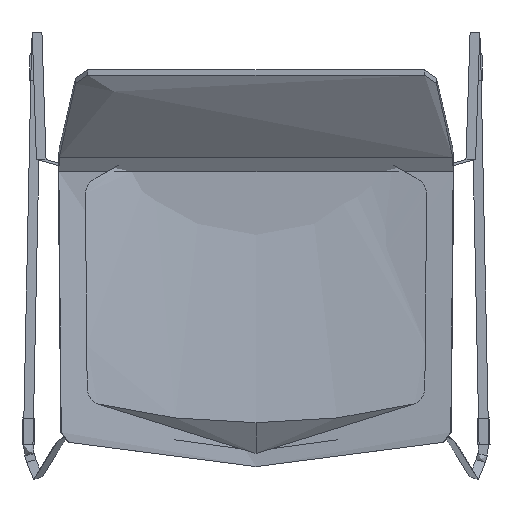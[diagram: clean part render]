
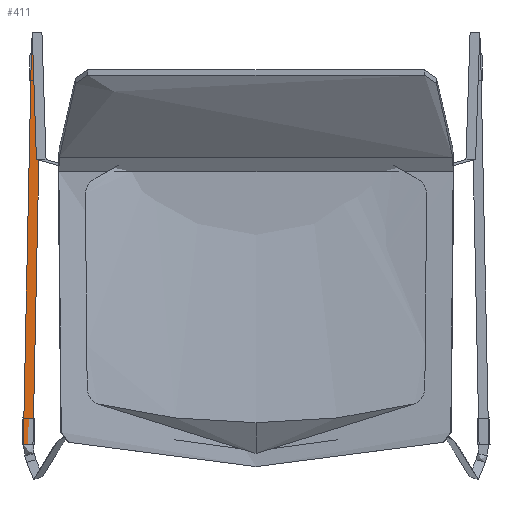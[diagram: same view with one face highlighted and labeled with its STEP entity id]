
A CAD part, top view. The second image highlights one B-rep face of the part: STEP entity #411.
In plain terms, the highlighted free-form (B-spline) face has degree [3, 2] with [4, 5] control points.
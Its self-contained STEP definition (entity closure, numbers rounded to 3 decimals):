
#150=(
BOUNDED_CURVE()
B_SPLINE_CURVE(2,(#5857,#5858,#5859,#5860,#5861),.UNSPECIFIED.,.F.,.F.)
B_SPLINE_CURVE_WITH_KNOTS((3,2,3),(0.,8.639,17.279),
 .UNSPECIFIED.)
CURVE()
GEOMETRIC_REPRESENTATION_ITEM()
RATIONAL_B_SPLINE_CURVE((1.,0.707,1.,0.707,1.))
REPRESENTATION_ITEM('')
);
#151=(
BOUNDED_CURVE()
B_SPLINE_CURVE(3,(#5862,#5863,#5864,#5865),.UNSPECIFIED.,.F.,.F.)
B_SPLINE_CURVE_WITH_KNOTS((4,4),(0.,450.399),.UNSPECIFIED.)
CURVE()
GEOMETRIC_REPRESENTATION_ITEM()
RATIONAL_B_SPLINE_CURVE((1.,1.,1.,1.))
REPRESENTATION_ITEM('')
);
#152=(
BOUNDED_CURVE()
B_SPLINE_CURVE(2,(#5866,#5867,#5868,#5869,#5870),.UNSPECIFIED.,.F.,.F.)
B_SPLINE_CURVE_WITH_KNOTS((3,2,3),(0.,8.639,17.279),
 .UNSPECIFIED.)
CURVE()
GEOMETRIC_REPRESENTATION_ITEM()
RATIONAL_B_SPLINE_CURVE((1.,0.707,1.,0.707,1.))
REPRESENTATION_ITEM('')
);
#177=(
BOUNDED_CURVE()
B_SPLINE_CURVE(3,(#6037,#6038,#6039,#6040),.UNSPECIFIED.,.F.,.F.)
B_SPLINE_CURVE_WITH_KNOTS((4,4),(0.,450.399),.UNSPECIFIED.)
CURVE()
GEOMETRIC_REPRESENTATION_ITEM()
RATIONAL_B_SPLINE_CURVE((1.,1.,1.,1.))
REPRESENTATION_ITEM('')
);
#315=(
BOUNDED_SURFACE()
B_SPLINE_SURFACE(3,2,((#5445,#5446,#5447,#5448,#5449),(#5450,#5451,#5452,
#5453,#5454),(#5455,#5456,#5457,#5458,#5459),(#5460,#5461,#5462,#5463,#5464)),
 .UNSPECIFIED.,.F.,.F.,.F.)
B_SPLINE_SURFACE_WITH_KNOTS((4,4),(3,2,3),(0.,450.399),(0.,8.639,
17.279),.UNSPECIFIED.)
GEOMETRIC_REPRESENTATION_ITEM()
RATIONAL_B_SPLINE_SURFACE(((1.,0.707,1.,0.707,1.),
(1.,0.707,1.,0.707,1.),(1.,0.707,1.,
0.707,1.),(1.,0.707,1.,0.707,1.)))
REPRESENTATION_ITEM('')
SURFACE()
);
#411=ADVANCED_FACE('',(#555),#315,.T.);
#555=FACE_OUTER_BOUND('',#699,.T.);
#699=EDGE_LOOP('',(#991,#992,#993,#994));
#991=ORIENTED_EDGE('',*,*,#1459,.F.);
#992=ORIENTED_EDGE('',*,*,#1460,.T.);
#993=ORIENTED_EDGE('',*,*,#1461,.T.);
#994=ORIENTED_EDGE('',*,*,#1486,.F.);
#1459=EDGE_CURVE('',#1861,#1874,#150,.T.);
#1460=EDGE_CURVE('',#1861,#1862,#151,.T.);
#1461=EDGE_CURVE('',#1862,#1875,#152,.T.);
#1486=EDGE_CURVE('',#1874,#1875,#177,.T.);
#1861=VERTEX_POINT('',#5748);
#1862=VERTEX_POINT('',#5749);
#1874=VERTEX_POINT('',#5761);
#1875=VERTEX_POINT('',#5762);
#5445=CARTESIAN_POINT('',(-254.378,-184.092,7.929));
#5446=CARTESIAN_POINT('',(-254.307,-184.094,13.429));
#5447=CARTESIAN_POINT('',(-259.805,-183.981,13.5));
#5448=CARTESIAN_POINT('',(-265.304,-183.868,13.571));
#5449=CARTESIAN_POINT('',(-265.375,-183.866,8.071));
#5450=CARTESIAN_POINT('',(-251.293,-33.991,7.929));
#5451=CARTESIAN_POINT('',(-251.222,-33.993,13.429));
#5452=CARTESIAN_POINT('',(-256.72,-33.88,13.5));
#5453=CARTESIAN_POINT('',(-262.218,-33.767,13.571));
#5454=CARTESIAN_POINT('',(-262.289,-33.765,8.071));
#5455=CARTESIAN_POINT('',(-248.207,116.11,7.929));
#5456=CARTESIAN_POINT('',(-248.136,116.109,13.429));
#5457=CARTESIAN_POINT('',(-253.635,116.222,13.5));
#5458=CARTESIAN_POINT('',(-259.133,116.335,13.571));
#5459=CARTESIAN_POINT('',(-259.204,116.336,8.071));
#5460=CARTESIAN_POINT('',(-245.122,266.211,7.929));
#5461=CARTESIAN_POINT('',(-245.051,266.21,13.429));
#5462=CARTESIAN_POINT('',(-250.55,266.323,13.5));
#5463=CARTESIAN_POINT('',(-256.048,266.436,13.571));
#5464=CARTESIAN_POINT('',(-256.119,266.437,8.071));
#5748=CARTESIAN_POINT('',(-254.378,-184.092,7.929));
#5749=CARTESIAN_POINT('',(-245.122,266.211,7.929));
#5761=CARTESIAN_POINT('',(-265.375,-183.866,8.071));
#5762=CARTESIAN_POINT('',(-256.119,266.437,8.071));
#5857=CARTESIAN_POINT('',(-254.378,-184.092,7.929));
#5858=CARTESIAN_POINT('',(-254.307,-184.094,13.429));
#5859=CARTESIAN_POINT('',(-259.805,-183.981,13.5));
#5860=CARTESIAN_POINT('',(-265.304,-183.868,13.571));
#5861=CARTESIAN_POINT('',(-265.375,-183.866,8.071));
#5862=CARTESIAN_POINT('',(-254.378,-184.092,7.929));
#5863=CARTESIAN_POINT('',(-251.293,-33.991,7.929));
#5864=CARTESIAN_POINT('',(-248.207,116.11,7.929));
#5865=CARTESIAN_POINT('',(-245.122,266.211,7.929));
#5866=CARTESIAN_POINT('',(-245.122,266.211,7.929));
#5867=CARTESIAN_POINT('',(-245.051,266.21,13.429));
#5868=CARTESIAN_POINT('',(-250.55,266.323,13.5));
#5869=CARTESIAN_POINT('',(-256.048,266.436,13.571));
#5870=CARTESIAN_POINT('',(-256.119,266.437,8.071));
#6037=CARTESIAN_POINT('',(-265.375,-183.866,8.071));
#6038=CARTESIAN_POINT('',(-262.289,-33.765,8.071));
#6039=CARTESIAN_POINT('',(-259.204,116.336,8.071));
#6040=CARTESIAN_POINT('',(-256.119,266.437,8.071));
